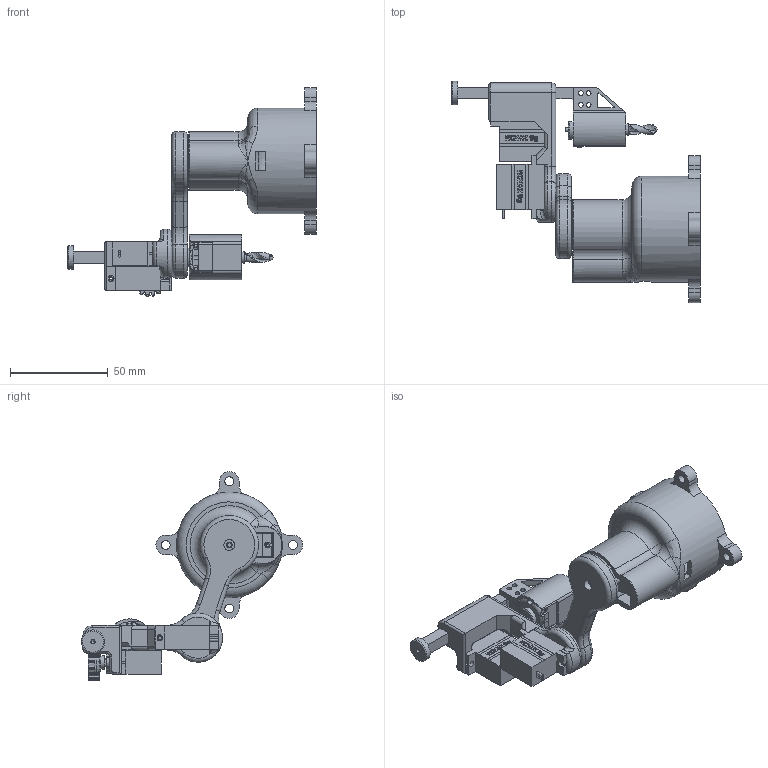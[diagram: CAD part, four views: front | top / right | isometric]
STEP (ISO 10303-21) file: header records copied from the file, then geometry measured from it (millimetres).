
FILE_DESCRIPTION(/* description */ ('','CAx-IF Rec.Pracs.---Representation and Presentation of Product Manufacturing Information (PMI)---4.0---2014-10-13'),/* implementation_level */ '2;1');
FILE_NAME(/* name */ 'Assieme_scara_eco_foratura.stp',/* time_stamp */ '2026-05-02T15:53:07+02:00',/* author */ ('R5800u'),/* organization */ (''),/* preprocessor_version */ 'ST-DEVELOPER v20',/* originating_system */ 'Autodesk Inventor 2025',/* authorisation */ '');
FILE_SCHEMA (('AP242_MANAGED_MODEL_BASED_3D_ENGINEERING_MIM_LF { 1 0 10303 442 1 1 4 }'));
Products named in the file (12): Assieme_scara_eco_foratura; pignone_17mm; cremagliera; frame_guida_mg90s; braccio; base; MG90_ldb_v2; MG90S ARM doppio; tappo_cremagliera; dc motor; blocco_dc_motor; drill bit small
Assembly tree (15 placements, depth 2):
  Assieme_scara_eco_foratura
    MG90_ldb_v2  x3
    MG90S ARM doppio  x3
    pignone_17mm
    cremagliera
    frame_guida_mg90s
    braccio
    base
    tappo_cremagliera
    dc motor
    blocco_dc_motor
    drill bit small
Bounding box: 127.06 x 113.12 x 106.72 mm (x, y, z)
Volume: 99040.6 mm3; surface area: 54033 mm2
Topology: 15 solids, 17 shells, 2175 faces, 6093 edges, 4019 vertices
Faces by surface type: plane 1282, cylinder 503, bspline 327, torus 54, cone 7, sphere 2
Full cylindrical faces by diameter (mm): 1.167 x9, 1.2 x6, 1.5 x1, 1.6 x2, 1.8 x5, 1.98 x1, 2 x3, 2.02 x1, 2.2 x7, 2.4 x12, 2.7 x1, 2.9 x2, 4 x1, 4.5 x4, 4.75 x3, 5 x4, 5.48 x1, 5.5 x6, 6 x2, 6.2 x1, 6.8 x3, 12 x1, 17 x1, 48 x1, 54 x1
Entity records: 62348 total; most frequent: CARTESIAN_POINT 22120, DIRECTION 7274, ORIENTED_EDGE 7032, EDGE_CURVE 3519, STYLED_ITEM 2589, AXIS2_PLACEMENT_3D 2570, VERTEX_POINT 2313, LINE 2134
